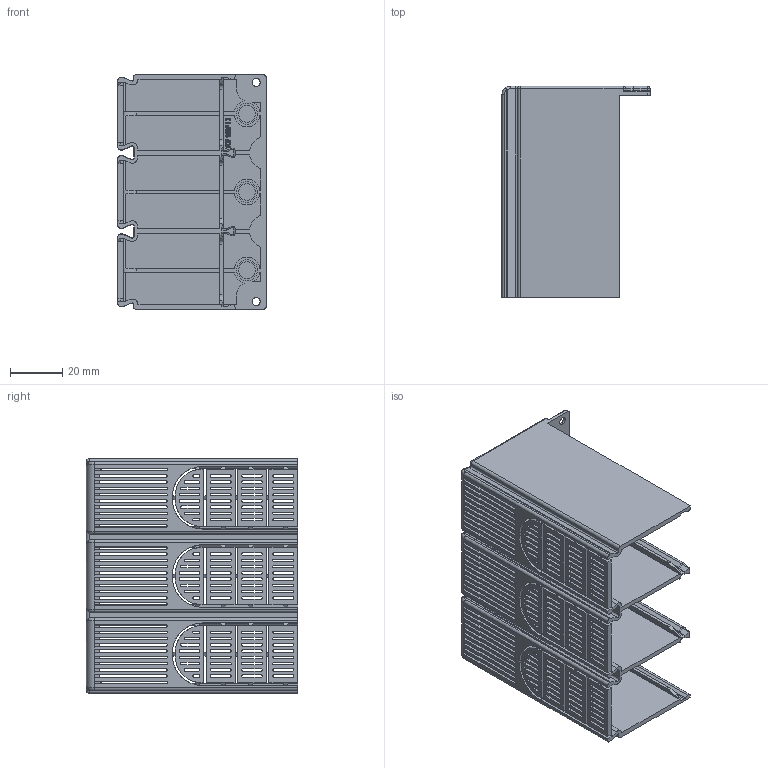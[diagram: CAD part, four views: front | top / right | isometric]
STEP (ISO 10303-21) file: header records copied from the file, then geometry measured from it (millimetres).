
FILE_DESCRIPTION((''),'2;1');
FILE_NAME('U1_3P_LONG_TERMINAL_COVER','2018-06-04T',('HHI'),(''),'PRO/ENGINEER BY PARAMETRIC TECHNOLOGY CORPORATION, 2012453','PRO/ENGINEER BY PARAMETRIC TECHNOLOGY CORPORATION, 2012453','');
FILE_SCHEMA(('CONFIG_CONTROL_DESIGN'));
Length unit declared in the file: millimetre
Products named in the file (1): U1_3P_LONG_TERMINAL_COVER
Bounding box: 56.8 x 81 x 90 mm (x, y, z)
Volume: 48689.3 mm3; surface area: 62565.8 mm2
Topology: 1 solids, 1 shells, 1340 faces, 3953 edges, 2556 vertices
Faces by surface type: plane 654, cylinder 457, extrusion 97, torus 48, bspline 42, cone 30, sphere 12
Entity records: 47177 total; most frequent: CARTESIAN_POINT 10705, ORIENTED_EDGE 7906, DIRECTION 7224, EDGE_CURVE 3953, VECTOR 2634, VERTEX_POINT 2556, LINE 2537, AXIS2_PLACEMENT_3D 2295
